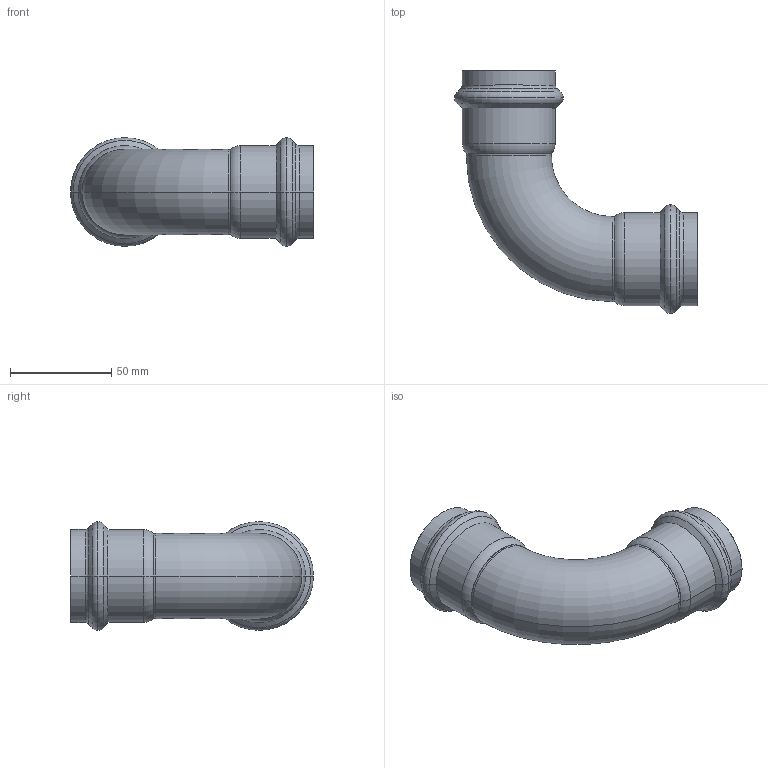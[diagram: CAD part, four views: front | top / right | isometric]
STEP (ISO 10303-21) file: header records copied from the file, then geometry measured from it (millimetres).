
FILE_DESCRIPTION(('CoCreate Modeling STEP Export'),'2;1');
FILE_NAME('8002VW42.stp','2013-01-29T13:46:55',(''),(''),'CoCreate Modeling STEP processor for AP214 (Solid Model)','CoCreate Modeling 17.00A 17-Jun-2010 (C) Parametric Technology GmbH','');
FILE_SCHEMA(('AUTOMOTIVE_DESIGN { 1 0 10303 214 1 1 1 1 }'));
Length unit declared in the file: millimetre
Products named in the file (1): 8002VW42
Bounding box: 119.87 x 119.78 x 53.61 mm (x, y, z)
Volume: 45520.3 mm3; surface area: 46173.9 mm2
Topology: 1 solids, 1 shells, 95 faces, 195 edges, 107 vertices
Faces by surface type: torus 32, cylinder 28, cone 28, plane 7
Entity records: 2017 total; most frequent: ORIENTED_EDGE 390, DIRECTION 324, CARTESIAN_POINT 297, EDGE_CURVE 195, AXIS2_PLACEMENT_3D 134, VERTEX_POINT 107, EDGE_LOOP 102, FACE_OUTER_BOUND 95
